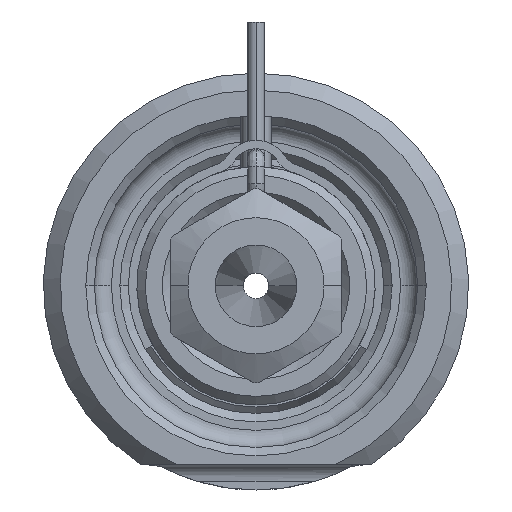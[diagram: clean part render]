
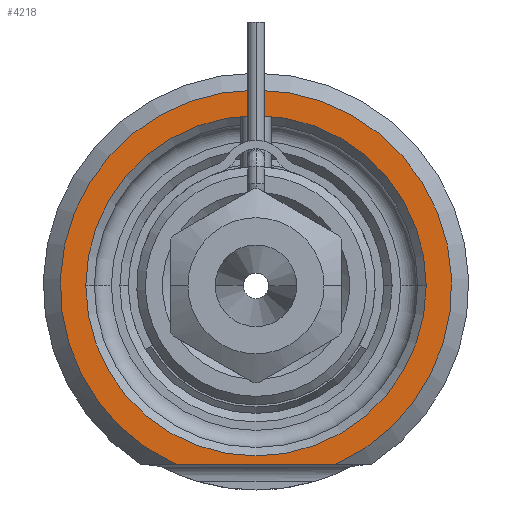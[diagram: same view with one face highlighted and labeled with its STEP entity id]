
A CAD part, front view. The second image highlights one B-rep face of the part: STEP entity #4218.
In plain terms, the highlighted planar face has unit normal (0, -1, 0).
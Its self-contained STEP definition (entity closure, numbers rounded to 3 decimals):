
#1345=CARTESIAN_POINT('',(0.,0.,0.));
#1346=DIRECTION('',(0.,-1.,0.));
#1347=DIRECTION('',(0.408,0.,-0.913));
#1348=AXIS2_PLACEMENT_3D('',#1345,#1346,#1347);
#1369=DIRECTION('',(1.,0.,0.));
#1370=VECTOR('',#1369,9.381);
#1371=CARTESIAN_POINT('',(-4.69,0.,-10.5));
#1372=LINE('',#1371,#1370);
#1373=CARTESIAN_POINT('',(0.,0.,0.));
#1374=DIRECTION('',(0.,1.,0.));
#1375=DIRECTION('',(-1.,0.,0.));
#1376=AXIS2_PLACEMENT_3D('',#1373,#1374,#1375);
#1378=CARTESIAN_POINT('',(0.,0.,0.));
#1379=DIRECTION('',(0.,1.,0.));
#1380=DIRECTION('',(1.,0.,0.));
#1381=AXIS2_PLACEMENT_3D('',#1378,#1379,#1380);
#2308=CARTESIAN_POINT('',(-10.,0.,0.));
#2309=CARTESIAN_POINT('',(10.,0.,0.));
#2310=VERTEX_POINT('',#2308);
#2311=VERTEX_POINT('',#2309);
#2352=CARTESIAN_POINT('',(-4.69,0.,-10.5));
#2353=CARTESIAN_POINT('',(4.69,0.,-10.5));
#2354=VERTEX_POINT('',#2352);
#2355=VERTEX_POINT('',#2353);
#4203=CARTESIAN_POINT('',(0.,0.,0.));
#4204=DIRECTION('',(0.,-1.,0.));
#4205=DIRECTION('',(1.,0.,0.));
#4206=AXIS2_PLACEMENT_3D('',#4203,#4204,#4205);
#4207=PLANE('',#4206);
#4208=ORIENTED_EDGE('',*,*,#4138,.F.);
#4209=ORIENTED_EDGE('',*,*,#4195,.F.);
#4210=EDGE_LOOP('',(#4208,#4209));
#4211=FACE_OUTER_BOUND('',#4210,.F.);
#4213=ORIENTED_EDGE('',*,*,#4212,.F.);
#4215=ORIENTED_EDGE('',*,*,#4214,.F.);
#4216=EDGE_LOOP('',(#4213,#4215));
#4217=FACE_BOUND('',#4216,.F.);
#4218=ADVANCED_FACE('',(#4211,#4217),#4207,.T.);
#1349=CIRCLE('',#1348,11.5);
#1377=CIRCLE('',#1376,10.);
#1382=CIRCLE('',#1381,10.);
#4138=EDGE_CURVE('',#2354,#2355,#1372,.T.);
#4195=EDGE_CURVE('',#2355,#2354,#1349,.T.);
#4212=EDGE_CURVE('',#2310,#2311,#1377,.T.);
#4214=EDGE_CURVE('',#2311,#2310,#1382,.T.);
